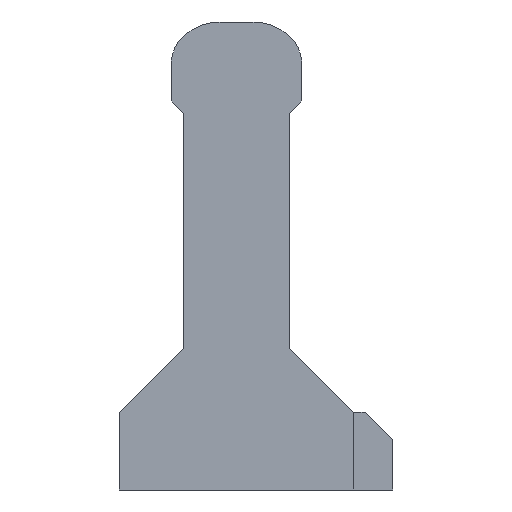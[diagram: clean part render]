
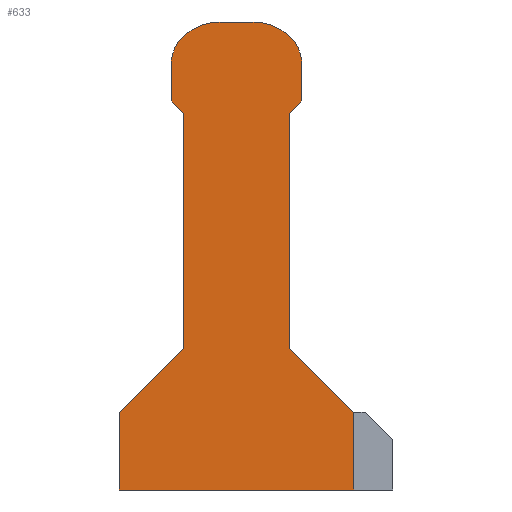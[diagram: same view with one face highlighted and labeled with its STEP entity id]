
A CAD part, front view. The second image highlights one B-rep face of the part: STEP entity #633.
In plain terms, the highlighted planar face has unit normal (0, -1, 0).
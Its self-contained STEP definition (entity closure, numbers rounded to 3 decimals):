
#38=LINE('',#932,#116);
#39=LINE('',#939,#117);
#40=LINE('',#945,#118);
#41=LINE('',#947,#119);
#42=LINE('',#949,#120);
#43=LINE('',#951,#121);
#44=LINE('',#953,#122);
#45=LINE('',#955,#123);
#46=LINE('',#957,#124);
#47=LINE('',#959,#125);
#48=LINE('',#961,#126);
#49=LINE('',#963,#127);
#116=VECTOR('',#751,1000.);
#117=VECTOR('',#756,1000.);
#118=VECTOR('',#761,1000.);
#119=VECTOR('',#762,1000.);
#120=VECTOR('',#763,1000.);
#121=VECTOR('',#764,1000.);
#122=VECTOR('',#765,1000.);
#123=VECTOR('',#766,1000.);
#124=VECTOR('',#767,1000.);
#125=VECTOR('',#768,1000.);
#126=VECTOR('',#769,1000.);
#127=VECTOR('',#770,1000.);
#198=ORIENTED_EDGE('',*,*,#378,.T.);
#199=ORIENTED_EDGE('',*,*,#379,.T.);
#200=ORIENTED_EDGE('',*,*,#380,.T.);
#201=ORIENTED_EDGE('',*,*,#381,.T.);
#202=ORIENTED_EDGE('',*,*,#382,.T.);
#203=ORIENTED_EDGE('',*,*,#383,.T.);
#204=ORIENTED_EDGE('',*,*,#384,.F.);
#205=ORIENTED_EDGE('',*,*,#385,.F.);
#206=ORIENTED_EDGE('',*,*,#386,.F.);
#207=ORIENTED_EDGE('',*,*,#387,.F.);
#208=ORIENTED_EDGE('',*,*,#388,.T.);
#209=ORIENTED_EDGE('',*,*,#389,.T.);
#210=ORIENTED_EDGE('',*,*,#390,.T.);
#211=ORIENTED_EDGE('',*,*,#391,.T.);
#212=ORIENTED_EDGE('',*,*,#392,.T.);
#213=ORIENTED_EDGE('',*,*,#393,.T.);
#378=EDGE_CURVE('',#468,#469,#38,.T.);
#379=EDGE_CURVE('',#469,#470,#516,.T.);
#380=EDGE_CURVE('',#470,#471,#517,.T.);
#381=EDGE_CURVE('',#471,#472,#39,.T.);
#382=EDGE_CURVE('',#472,#473,#518,.T.);
#383=EDGE_CURVE('',#473,#474,#519,.T.);
#384=EDGE_CURVE('',#475,#474,#40,.T.);
#385=EDGE_CURVE('',#476,#475,#41,.T.);
#386=EDGE_CURVE('',#477,#476,#42,.T.);
#387=EDGE_CURVE('',#478,#477,#43,.T.);
#388=EDGE_CURVE('',#478,#479,#44,.T.);
#389=EDGE_CURVE('',#479,#480,#45,.T.);
#390=EDGE_CURVE('',#480,#481,#46,.T.);
#391=EDGE_CURVE('',#481,#482,#47,.T.);
#392=EDGE_CURVE('',#482,#483,#48,.T.);
#393=EDGE_CURVE('',#483,#468,#49,.T.);
#468=VERTEX_POINT('',#933);
#469=VERTEX_POINT('',#934);
#470=VERTEX_POINT('',#936);
#471=VERTEX_POINT('',#938);
#472=VERTEX_POINT('',#940);
#473=VERTEX_POINT('',#942);
#474=VERTEX_POINT('',#944);
#475=VERTEX_POINT('',#946);
#476=VERTEX_POINT('',#948);
#477=VERTEX_POINT('',#950);
#478=VERTEX_POINT('',#952);
#479=VERTEX_POINT('',#954);
#480=VERTEX_POINT('',#956);
#481=VERTEX_POINT('',#958);
#482=VERTEX_POINT('',#960);
#483=VERTEX_POINT('',#962);
#516=CIRCLE('',#685,1.);
#517=CIRCLE('',#686,1.4);
#518=CIRCLE('',#687,1.4);
#519=CIRCLE('',#688,1.);
#525=EDGE_LOOP('',(#198,#199,#200,#201,#202,#203,#204,#205,#206,#207,#208,
#209,#210,#211,#212,#213));
#565=FACE_BOUND('',#525,.T.);
#605=PLANE('',#684);
#633=ADVANCED_FACE('',(#565),#605,.T.);
#684=AXIS2_PLACEMENT_3D('',#931,#749,#750);
#685=AXIS2_PLACEMENT_3D('',#935,#752,#753);
#686=AXIS2_PLACEMENT_3D('',#937,#754,#755);
#687=AXIS2_PLACEMENT_3D('',#941,#757,#758);
#688=AXIS2_PLACEMENT_3D('',#943,#759,#760);
#749=DIRECTION('',(0.,-1.,0.));
#750=DIRECTION('',(0.,0.,-1.));
#751=DIRECTION('',(0.,0.,1.));
#752=DIRECTION('',(0.,-1.,0.));
#753=DIRECTION('',(0.,0.,-1.));
#754=DIRECTION('',(0.,-1.,0.));
#755=DIRECTION('',(0.,0.,-1.));
#756=DIRECTION('',(-1.,0.,0.));
#757=DIRECTION('',(0.,-1.,0.));
#758=DIRECTION('',(0.,0.,-1.));
#759=DIRECTION('',(0.,-1.,0.));
#760=DIRECTION('',(0.,0.,-1.));
#761=DIRECTION('',(0.,0.,1.));
#762=DIRECTION('',(-0.707,0.,0.707));
#763=DIRECTION('',(0.,0.,1.));
#764=DIRECTION('',(0.707,0.,0.707));
#765=DIRECTION('',(0.,0.,-1.));
#766=DIRECTION('',(1.,0.,0.));
#767=DIRECTION('',(0.,0.,1.));
#768=DIRECTION('',(-0.707,0.,0.707));
#769=DIRECTION('',(0.,0.,1.));
#770=DIRECTION('',(0.707,0.,0.707));
#931=CARTESIAN_POINT('',(0.,-30.,0.));
#932=CARTESIAN_POINT('',(1.675,-30.,0.));
#933=CARTESIAN_POINT('',(1.675,-30.,2.975));
#934=CARTESIAN_POINT('',(1.675,-30.,3.91));
#935=CARTESIAN_POINT('',(0.675,-30.,3.91));
#936=CARTESIAN_POINT('',(1.307,-30.,4.685));
#937=CARTESIAN_POINT('',(0.422,-30.,3.6));
#938=CARTESIAN_POINT('',(0.422,-30.,5.));
#939=CARTESIAN_POINT('',(1.8,-30.,5.));
#940=CARTESIAN_POINT('',(-0.422,-30.,5.));
#941=CARTESIAN_POINT('',(-0.422,-30.,3.6));
#942=CARTESIAN_POINT('',(-1.307,-30.,4.685));
#943=CARTESIAN_POINT('',(-0.675,-30.,3.91));
#944=CARTESIAN_POINT('',(-1.675,-30.,3.91));
#945=CARTESIAN_POINT('',(-1.675,-30.,0.));
#946=CARTESIAN_POINT('',(-1.675,-30.,2.975));
#947=CARTESIAN_POINT('',(0.65,-30.,0.65));
#948=CARTESIAN_POINT('',(-1.35,-30.,2.65));
#949=CARTESIAN_POINT('',(-1.35,-30.,0.));
#950=CARTESIAN_POINT('',(-1.35,-30.,-3.364));
#951=CARTESIAN_POINT('',(1.007,-30.,-1.007));
#952=CARTESIAN_POINT('',(-3.,-30.,-5.014));
#953=CARTESIAN_POINT('',(-3.,-30.,4.8));
#954=CARTESIAN_POINT('',(-3.,-30.,-7.));
#955=CARTESIAN_POINT('',(-0.959,-30.,-7.));
#956=CARTESIAN_POINT('',(3.,-30.,-7.));
#957=CARTESIAN_POINT('',(3.,-30.,-4.8));
#958=CARTESIAN_POINT('',(3.,-30.,-5.014));
#959=CARTESIAN_POINT('',(-1.007,-30.,-1.007));
#960=CARTESIAN_POINT('',(1.35,-30.,-3.364));
#961=CARTESIAN_POINT('',(1.35,-30.,0.));
#962=CARTESIAN_POINT('',(1.35,-30.,2.65));
#963=CARTESIAN_POINT('',(-0.65,-30.,0.65));
